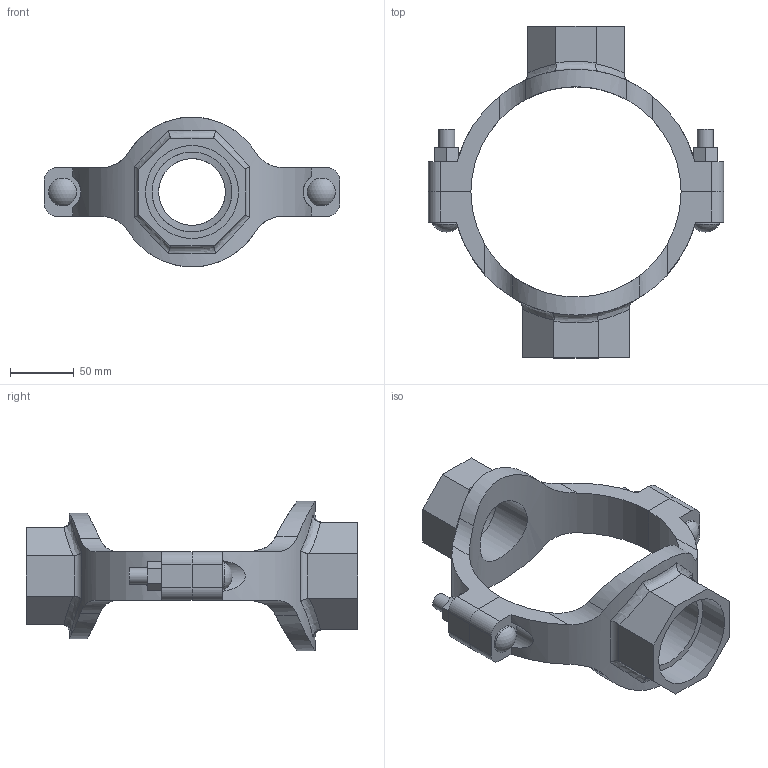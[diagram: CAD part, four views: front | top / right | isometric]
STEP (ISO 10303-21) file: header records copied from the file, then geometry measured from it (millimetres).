
FILE_DESCRIPTION(/* description */ ('VIC MECH-T BRANCH OUTLET CROSS STYLE 920N (THD)','CAx-IF Rec.Pracs.---Representation and Presentation of Product Manufacturing Information (PMI)---4.0---2014-10-13'),/* implementation_level */ '2;1');
FILE_NAME(/* name */ 'C:\Users\Vjadhav\AppData\Roaming\Autodesk\ApplicationPlugins\Back Up\Victaulic_IPS_Mechanical-Cross Outlet_Style 920N (FPT)\Victaulic_IPS_Mechanical-Cross Outlet_06.0 (165.1)x02.0x02.5 (150x50x65).stp',/* time_stamp */ '2020-08-06T19:00:10+06:00',/* author */ ('Vjadhav'),/* organization */ ('Victaulic'),/* preprocessor_version */ 'ST-DEVELOPER v17.2',/* originating_system */ 'Autodesk Inventor 2019',/* authorisation */ '');
FILE_SCHEMA (('AP242_MANAGED_MODEL_BASED_3D_ENGINEERING_MIM_LF { 1 0 10303 442 1 1 4 }'));
Length unit declared in the file: inch
Products named in the file (3): 920NT-06.0 (165.1)x02.0x02.5; 920NT-06.0 (165.1)x02.0; 920NT-06.0 (165.1)x02.5
Assembly tree (2 placements, depth 2):
  920NT-06.0 (165.1)x02.0x02.5
    920NT-06.0 (165.1)x02.0
    920NT-06.0 (165.1)x02.5
Bounding box: 231.9 x 260.6 x 117.6 mm (x, y, z)
Volume: 618434.2 mm3; surface area: 134542.6 mm2
Topology: 2 solids, 2 shells, 132 faces, 350 edges, 236 vertices
Faces by surface type: plane 68, cylinder 50, bspline 8, torus 4, sphere 2
Full cylindrical faces by diameter (mm): 12.7 x4, 21.982 x2, 52.387 x1, 60.325 x1, 62.738 x1, 73.025 x1
Entity records: 5264 total; most frequent: CARTESIAN_POINT 1751, ORIENTED_EDGE 700, DIRECTION 648, EDGE_CURVE 350, VERTEX_POINT 236, AXIS2_PLACEMENT_3D 231, LINE 186, VECTOR 186
